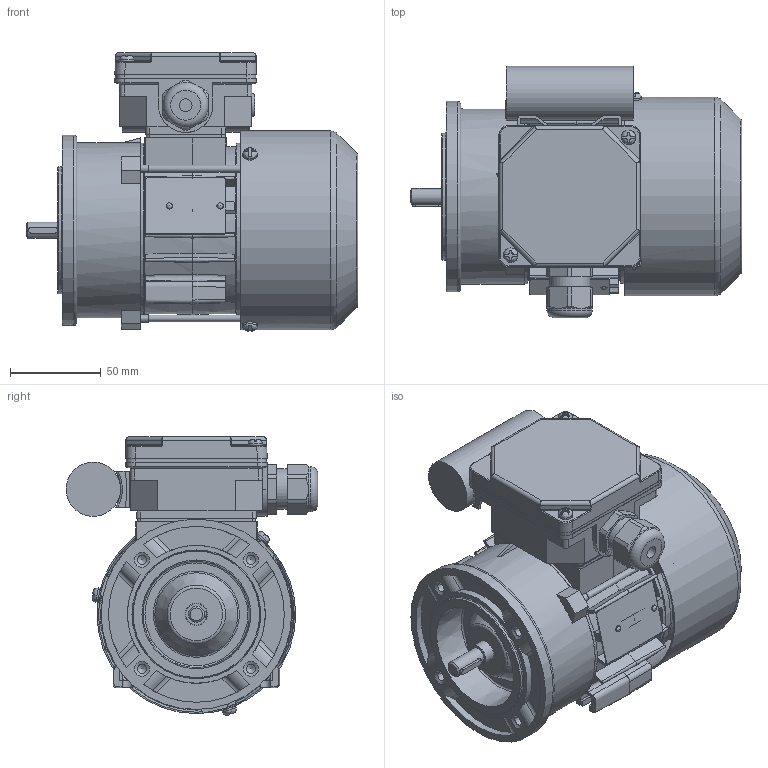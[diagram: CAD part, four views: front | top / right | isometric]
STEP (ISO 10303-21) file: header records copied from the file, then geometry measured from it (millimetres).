
FILE_DESCRIPTION( ( 'Unknown' ), '1' );
FILE_NAME( 'G:/Poczta Tk-1/STP/w.m.56/SEh56/SE(M)Kh56-A1.stp', 'Unknown', ( 'K. Szlosek' ), ( 'BESEL S.A.' ), 'PSStep 17.0.49', 'Unknown', ' ' );
FILE_SCHEMA( ( 'AUTOMOTIVE_DESIGN { 1 0 10303 214 1 1 1 1 }' ) );
Length unit declared in the file: millimetre
Products named in the file (31): Assem1; K4-2320 Uszczelka nr 1 Sh71,80; K3-9987 kadłub ze stojanem Sh56-B; K3-2193 Tarcza łożyskowa P Sg56-2..; K3-9990 wał Sh56-B; K2-0860 Pokrywka skrzynki zaciskowej; Wpust A3x3x16; K4-2820 Uszczelka nr 2 Sh71,80; Wkręt samogwintujący M4x8; Wkręt samogwintujący M4x16; K2-0879 Przewietrznik Sg56; Nitokołek A 2x6; K3-9440 Podstawa  skrzynki zaciskowej SEhR71-D; K4-0898 Tulejka uszczelniająca; K3-1974 Uchwyt kondensatora (mały); Kondensator bb 8uF; K1-0529 Tarcza kołnierzowa B14_1 SKg56-..1; K3-11363 Osłona przewietrznika Sh 56_A; Dławnica M20x1,5; Łożysko 6201; Tabliczka znamionowa 32x44; Śruba ściągająca E_M4x75
Assembly tree (46 placements, depth 2):
  Assem1
    K4-2320 Uszczelka nr 1 Sh71,80
    K3-9987 kadłub ze stojanem Sh56-B
    K3-2193 Tarcza łożyskowa P Sg56-2..
    K3-9990 wał Sh56-B
    K2-0860 Pokrywka skrzynki zaciskowej
    Wpust A3x3x16
    K4-2820 Uszczelka nr 2 Sh71,80
    Wkręt samogwintujący M4x8  x3
    Wkręt samogwintujący M4x16  x2
    K2-0879 Przewietrznik Sg56
    Nitokołek A 2x6  x2
    K3-9440 Podstawa  skrzynki zaciskowej SEhR71-D
    K4-0898 Tulejka uszczelniająca
    K3-1974 Uchwyt kondensatora (mały)
    Kondensator bb 8uF
    K1-0529 Tarcza kołnierzowa B14_1 SKg56-..1
    K3-11363 Osłona przewietrznika Sh 56_A
    Dławnica M20x1,5
    Łożysko 6201  x2
    Łożysko 6201  x2
    Łożysko 6201  x2
    Łożysko 6201  x2
    Łożysko 6201  x2
    Łożysko 6201  x2
    Łożysko 6201  x2
    Łożysko 6201  x2
    Łożysko 6201  x2
    Łożysko 6201  x2
    Tabliczka znamionowa 32x44
    Śruba ściągająca E_M4x75  x3
Bounding box: 183 x 138.82 x 153.72 mm (x, y, z)
Volume: 482418.1 mm3; surface area: 306767.2 mm2
Topology: 46 solids, 62 shells, 1795 faces, 4821 edges, 3106 vertices
Faces by surface type: plane 917, cylinder 530, torus 128, cone 108, bspline 78, sphere 34
Full cylindrical faces by diameter (mm): 2 x2, 2.4 x2, 3 x1, 3.242 x3, 3.5 x2, 3.7 x10, 4 x8, 4.5 x4, 4.6 x2, 4.8 x4, 4.917 x4, 5 x4, 6.5 x1, 7 x4, 8 x6, 9 x1, 10 x2, 10.9 x1, 11 x1, 11.5 x1, 11.8 x2, 12 x4, 12.4 x2, 15.5 x1, 16 x1, 16.1 x1, 17 x2, 18.38 x1, 18.5 x1, 18.52 x4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
Entity records: 74867 total; most frequent: CARTESIAN_POINT 21988, DIRECTION 8323, ORIENTED_EDGE 8208, EDGE_CURVE 4104, AXIS2_PLACEMENT_3D 3098, VERTEX_POINT 2786, LINE 2127, VECTOR 2127
